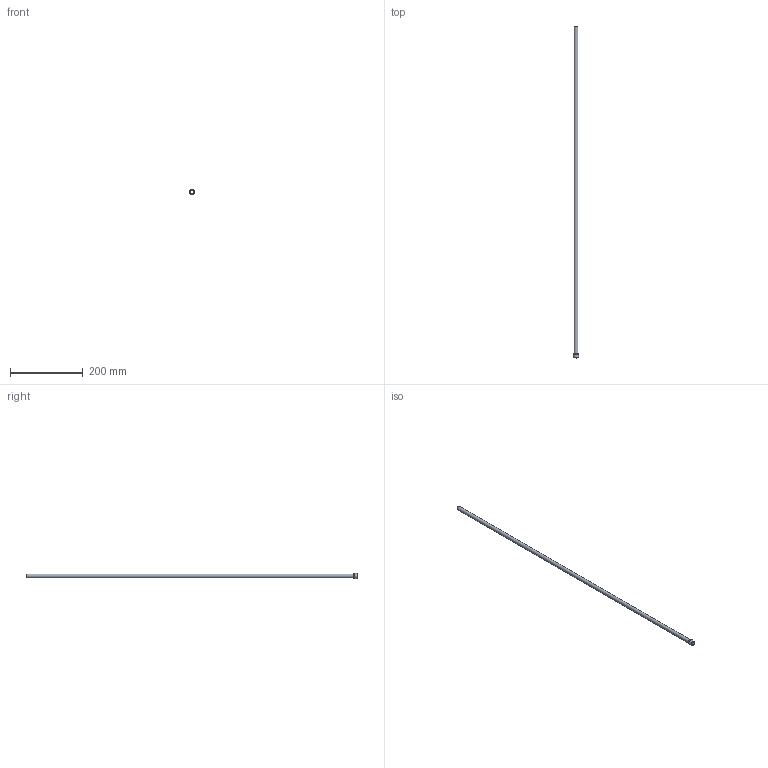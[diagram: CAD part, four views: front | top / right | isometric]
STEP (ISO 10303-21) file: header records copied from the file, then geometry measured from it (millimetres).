
FILE_DESCRIPTION(/* description */ (''),/* implementation_level */ '2;1');
FILE_NAME(/* name */ 'C:/Users/drich/Desktop/JHF437T-36 v1.step',/* time_stamp */ '2020-01-02T20:07:32-06:00',/* author */ (''),/* organization */ (''),/* preprocessor_version */ 'ST-DEVELOPER v18',/* originating_system */ 'Autodesk Translation Framework v8.12.0.6',/* authorisation */ '');
FILE_SCHEMA (('AUTOMOTIVE_DESIGN { 1 0 10303 214 3 1 1 }'));
Length unit declared in the file: inch
Products named in the file (1): JHF437T-36
Bounding box: 14.33 x 914.4 x 14.33 mm (x, y, z)
Volume: 12340.4 mm3; surface area: 60411.8 mm2
Topology: 1 solids, 1 shells, 10 faces, 24 edges, 18 vertices
Faces by surface type: cylinder 4, plane 4, cone 1, torus 1
Full cylindrical faces by diameter (mm): 10.084 x1, 10.846 x1, 14.176 x1, 14.326 x1
Entity records: 354 total; most frequent: DIRECTION 65, CARTESIAN_POINT 53, ORIENTED_EDGE 48, AXIS2_PLACEMENT_3D 30, EDGE_CURVE 24, CIRCLE 19, VERTEX_POINT 18, EDGE_LOOP 14
